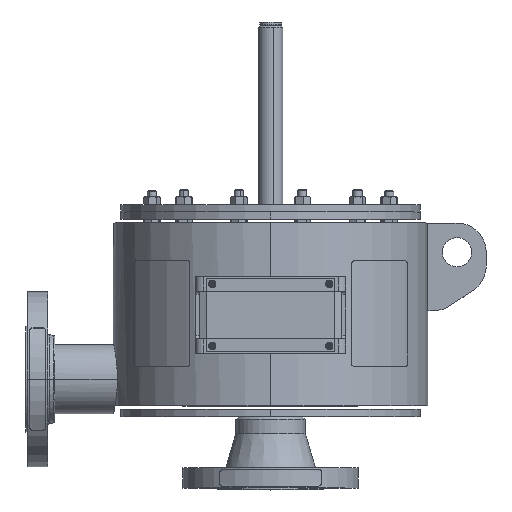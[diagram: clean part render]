
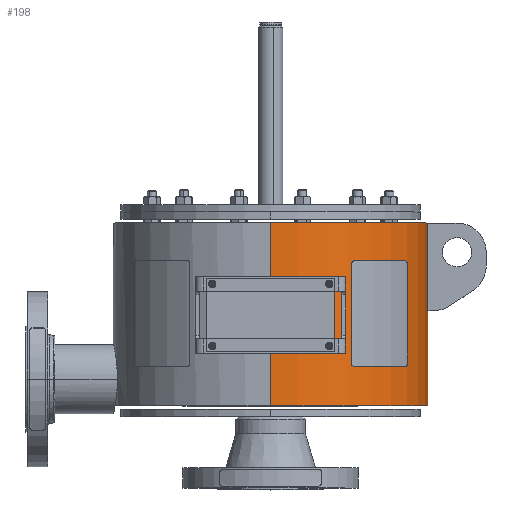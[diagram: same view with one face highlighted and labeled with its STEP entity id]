
A CAD part, top view. The second image highlights one B-rep face of the part: STEP entity #198.
In plain terms, the highlighted cylindrical face has radius 136.525 mm (diameter 273.05 mm), a partial arc.
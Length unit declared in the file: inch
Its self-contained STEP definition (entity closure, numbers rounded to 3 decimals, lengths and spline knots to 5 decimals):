
#25 = VECTOR ( 'NONE', #13424, 39.37008 ) ;
#198 = ADVANCED_FACE ( 'NONE', ( #4801 ), #12387, .T. ) ;
#881 = EDGE_CURVE ( 'NONE', #16708, #7587, #7583, .T. ) ;
#1488 = AXIS2_PLACEMENT_3D ( 'NONE', #11179, #4713, #16720 ) ;
#4044 = VERTEX_POINT ( 'NONE', #13886 ) ;
#4713 = DIRECTION ( 'NONE',  ( 0., -1., 0. ) ) ;
#4801 = FACE_OUTER_BOUND ( 'NONE', #7310, .T. ) ;
#5110 = ORIENTED_EDGE ( 'NONE', *, *, #12172, .F. ) ;
#5293 = CARTESIAN_POINT ( 'NONE',  ( 0., 6.25, -5.375 ) ) ;
#5830 = ORIENTED_EDGE ( 'NONE', *, *, #881, .F. ) ;
#6454 = ORIENTED_EDGE ( 'NONE', *, *, #11671, .T. ) ;
#7310 = EDGE_LOOP ( 'NONE', ( #5830, #6454, #15976, #5110 ) ) ;
#7583 = CIRCLE ( 'NONE', #10047, 5.375 ) ;
#7587 = VERTEX_POINT ( 'NONE', #5293 ) ;
#7710 = EDGE_CURVE ( 'NONE', #7735, #4044, #15647, .T. ) ;
#7735 = VERTEX_POINT ( 'NONE', #13965 ) ;
#8448 = DIRECTION ( 'NONE',  ( 0., 1., 0. ) ) ;
#9778 = CARTESIAN_POINT ( 'NONE',  ( 0., 6.25, -5.375 ) ) ;
#10047 = AXIS2_PLACEMENT_3D ( 'NONE', #10616, #16232, #15986 ) ;
#10510 = VECTOR ( 'NONE', #16933, 39.37008 ) ;
#10616 = CARTESIAN_POINT ( 'NONE',  ( 0., 6.25, 0. ) ) ;
#11048 = DIRECTION ( 'NONE',  ( 0., 0., 1. ) ) ;
#11179 = CARTESIAN_POINT ( 'NONE',  ( 0., 6.25, 0. ) ) ;
#11671 = EDGE_CURVE ( 'NONE', #16708, #7735, #14589, .T. ) ;
#12172 = EDGE_CURVE ( 'NONE', #7587, #4044, #12219, .T. ) ;
#12219 = LINE ( 'NONE', #9778, #25 ) ;
#12387 = CYLINDRICAL_SURFACE ( 'NONE', #1488, 5.375 ) ;
#13424 = DIRECTION ( 'NONE',  ( 0., -1., 0. ) ) ;
#13560 = CARTESIAN_POINT ( 'NONE',  ( 0., 0., 0. ) ) ;
#13886 = CARTESIAN_POINT ( 'NONE',  ( 0., 0., -5.375 ) ) ;
#13965 = CARTESIAN_POINT ( 'NONE',  ( 0., 0., 5.375 ) ) ;
#14589 = LINE ( 'NONE', #17012, #10510 ) ;
#14822 = CARTESIAN_POINT ( 'NONE',  ( 0., 6.25, 5.375 ) ) ;
#15647 = CIRCLE ( 'NONE', #16764, 5.375 ) ;
#15976 = ORIENTED_EDGE ( 'NONE', *, *, #7710, .T. ) ;
#15986 = DIRECTION ( 'NONE',  ( 0., 0., 1. ) ) ;
#16232 = DIRECTION ( 'NONE',  ( 0., 1., 0. ) ) ;
#16708 = VERTEX_POINT ( 'NONE', #14822 ) ;
#16720 = DIRECTION ( 'NONE',  ( 0., 0., -1. ) ) ;
#16764 = AXIS2_PLACEMENT_3D ( 'NONE', #13560, #8448, #11048 ) ;
#16933 = DIRECTION ( 'NONE',  ( 0., -1., 0. ) ) ;
#17012 = CARTESIAN_POINT ( 'NONE',  ( 0., 6.25, 5.375 ) ) ;
